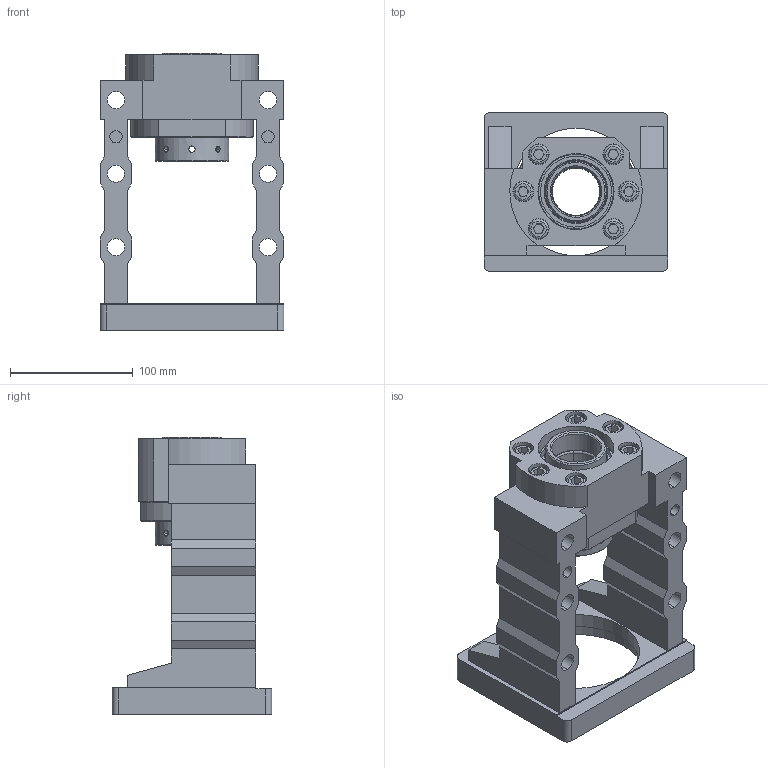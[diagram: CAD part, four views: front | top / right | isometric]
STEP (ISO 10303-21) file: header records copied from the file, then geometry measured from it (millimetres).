
FILE_DESCRIPTION (( 'STEP AP203' ), '1' );
FILE_NAME ('MBCS40-G²Õ¦X¥ó.STEP', '2022-10-20T07:16:09', ( '' ), ( '' ), 'SwSTEP 2.0', 'SolidWorks 2018', '' );
FILE_SCHEMA (( 'CONFIG_CONTROL_DESIGN' ));
Length unit declared in the file: millimetre
Products named in the file (1): MBCS40-G組合件
Bounding box: 150 x 130 x 226 mm (x, y, z)
Surface area: 208608.3 mm2 (no closed solid volume)
Topology: 0 solids, 22 shells, 340 faces, 961 edges, 637 vertices
Faces by surface type: plane 132, cylinder 118, cone 62, torus 18, bspline 10
Entity records: 24544 total; most frequent: CARTESIAN_POINT 15727, DIRECTION 1858, ORIENTED_EDGE 1674, EDGE_CURVE 953, AXIS2_PLACEMENT_3D 700, VERTEX_POINT 637, LINE 458, VECTOR 458
